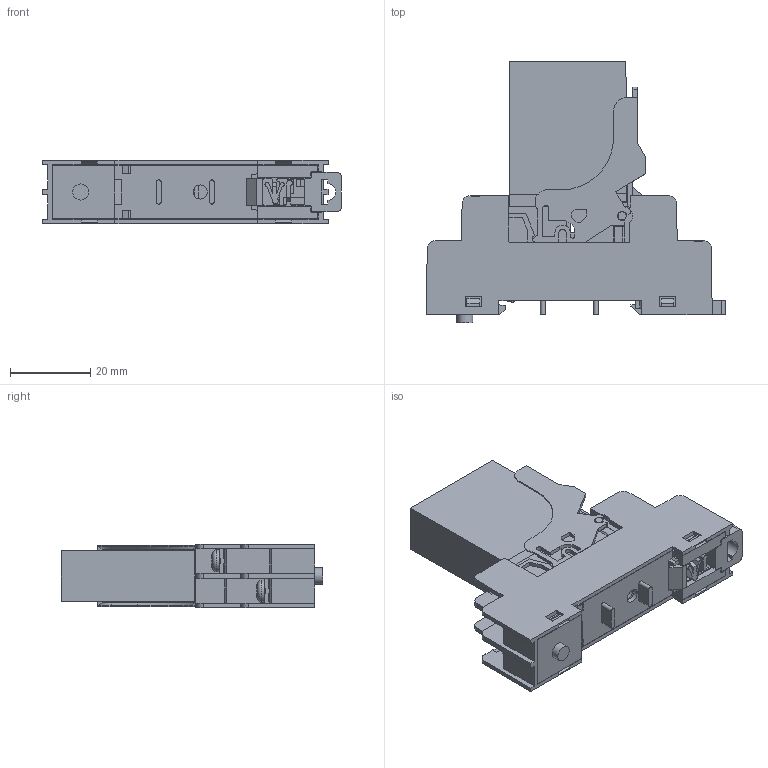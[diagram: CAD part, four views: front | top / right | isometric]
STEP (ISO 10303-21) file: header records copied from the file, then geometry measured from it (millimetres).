
FILE_DESCRIPTION(('STEP AP203'),'1');
FILE_NAME('KSOD+KPD-5A_3D.stp','2023-12-12T03:08:19',(' '),(' '),'Spatial InterOp 3D',' ',' ');
FILE_SCHEMA(('CONFIG_CONTROL_DESIGN'));
Length unit declared in the file: millimetre
Products named in the file (20): KPD-5A; 1018; 1006; 1013; 1012; 1010; 1009; 1008; 1007; 1001; KSO+KPD-5A; KSO; LED-1; ED___-1-1; ED__-1
Assembly tree (30 placements, depth 3):
  KSO+KPD-5A
    KPD-5A
      1018  x2
      1006  x2
      1013  x5
      1012
      1010  x2
      1009
      1008
      1007
      1001  x5
      (unnamed)
    KSO
      LED-1
      LED-1
      LED-1
      LED-1
      ED___-1-1
      ED__-1
      ED__-1
Bounding box: 74.3 x 65.13 x 15.7 mm (x, y, z)
Volume: 22276.9 mm3; surface area: 43661.4 mm2
Topology: 24 solids, 28 shells, 2686 faces, 7582 edges, 4922 vertices
Faces by surface type: plane 2011, cylinder 461, bspline 100, sphere 51, extrusion 35, cone 23, torus 5
Full cylindrical faces by diameter (mm): 0.9 x2, 1.1 x3, 1.4 x4, 2 x2, 2.5 x46, 3 x7, 3.2 x5, 3.5 x8, 3.75 x1, 4 x2, 5.498 x5, 5.6 x1, 6 x2, 6.5 x1
Entity records: 59204 total; most frequent: CARTESIAN_POINT 13472, ORIENTED_EDGE 9644, DIRECTION 8595, EDGE_CURVE 4833, VECTOR 4133, LINE 4098, VERTEX_POINT 3200, AXIS2_PLACEMENT_3D 2231
